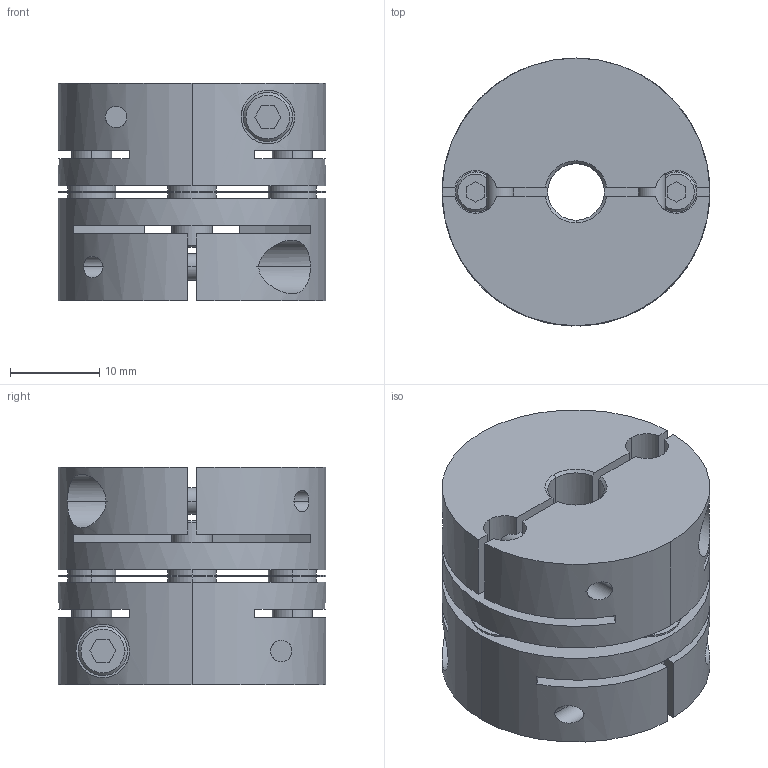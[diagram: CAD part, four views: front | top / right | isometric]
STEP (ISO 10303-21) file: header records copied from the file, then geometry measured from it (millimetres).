
FILE_DESCRIPTION((''),'2;1');
FILE_NAME('LAS-30C-6.35×12.stp','2015-10-14T15:22:10',(''),(''),'AutoCAD STEP 2000i','AutoCAD 2000i',', , ');
FILE_SCHEMA(('CONFIG_CONTROL_DESIGN'));
Length unit declared in the file: millimetre
Products named in the file (6): LAS-30C-6×10; 忣兜1; LA-3002-D10; LA-3002-D06-1; LA-3002-D06; LAS30-ITA
Assembly tree (5 placements, depth 2):
  LAS-30C-6×10
    忣兜1
    LA-3002-D10
    LA-3002-D06-1
    LA-3002-D06
    LAS30-ITA
Bounding box: 30 x 30 x 24.4 mm (x, y, z)
Volume: 12860 mm3; surface area: 9116 mm2
Topology: 1 solids, 1 shells, 240 faces, 636 edges, 416 vertices
Faces by surface type: plane 112, cylinder 100, cone 28
Entity records: 8333 total; most frequent: CARTESIAN_POINT 2034, DIRECTION 1316, ORIENTED_EDGE 1272, EDGE_CURVE 636, AXIS2_PLACEMENT_3D 482, VERTEX_POINT 416, VECTOR 352, LINE 352
